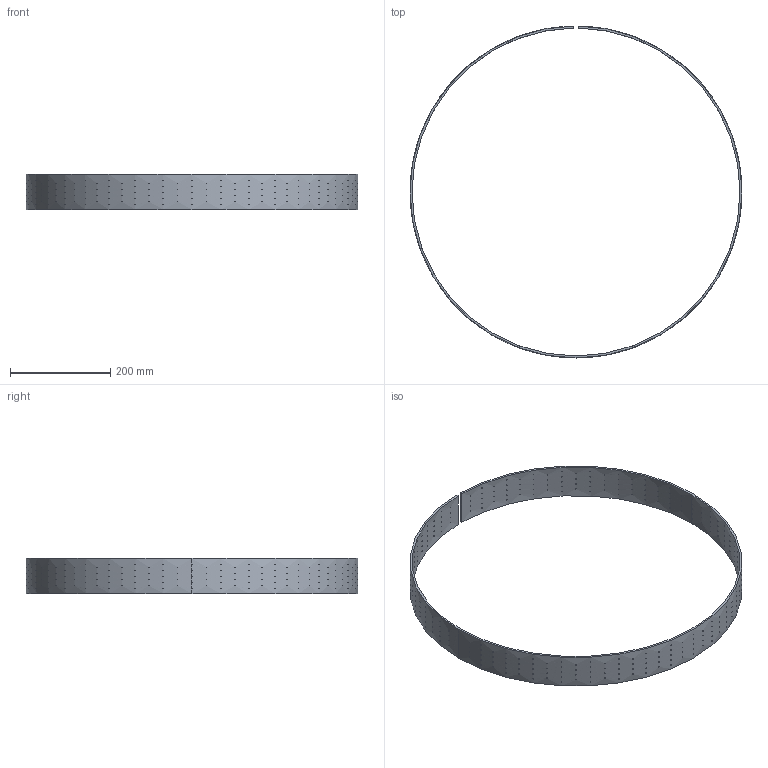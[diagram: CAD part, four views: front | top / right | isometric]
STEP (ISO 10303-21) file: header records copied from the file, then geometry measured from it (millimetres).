
FILE_DESCRIPTION (( 'STEP AP214' ), '1' );
FILE_NAME ('Blech mit schiefen Bohrungen.STEP', '2024-08-27T13:52:16', ( '' ), ( '' ), 'SwSTEP 2.0', 'SolidWorks 2024', '' );
FILE_SCHEMA (( 'AUTOMOTIVE_DESIGN' ));
Products named in the file (1): Blech mit schiefen Bohrungen
Bounding box: 663 x 662.96 x 70 mm (x, y, z)
Volume: 574501.2 mm3; surface area: 310609 mm2
Topology: 1 solids, 1 shells, 648 faces, 1958 edges, 1292 vertices
Faces by surface type: cylinder 644, plane 4
Entity records: 37805 total; most frequent: CARTESIAN_POINT 21503, ORIENTED_EDGE 3916, DIRECTION 1992, EDGE_CURVE 1958, VERTEX_POINT 1292, B_SPLINE_CURVE_WITH_KNOTS 1276, EDGE_LOOP 1266, VECTOR 670
